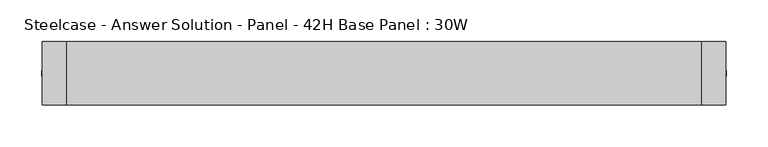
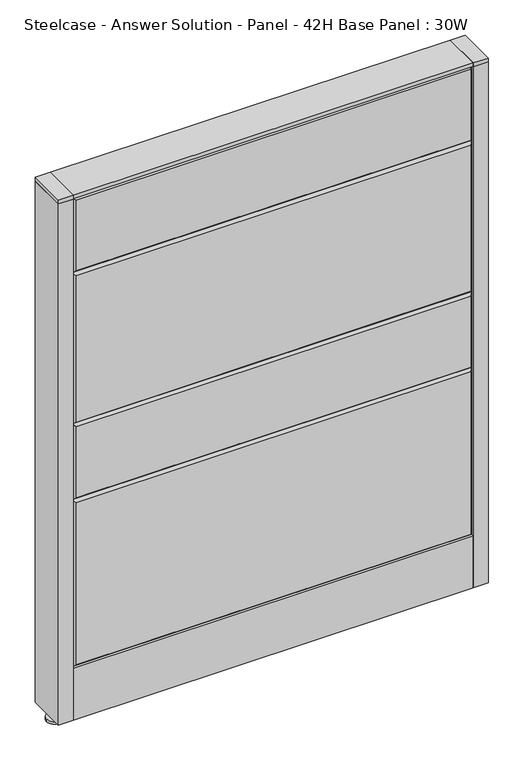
"""IFC4 building model written with IfcOpenShell, lengths in millimetres: furniture geometry, Steelcase - Answer Solution - Panel - 42H Base Panel : 30W."""

from ifc_helpers import new_model, si_unit, point, frame, frame_2d, origin, place, context, project, spatial, polyline, circle_curve, trimmed, segment, composite_curve, outline, extrude, faceted_brep, source, transform, mapped, element, save


def steelcase_answer_solution_panel_42h_base_panel_30w_5c508052(model_context):
    return source(origin(), model_context, "Body", "SolidModel", [
        extrude(outline(composite_curve([segment(trimmed(circle_curve(frame_2d((395.224, 0.0039657)), 5.08), [point((400.304, 0.0039657))], [point((390.144, 0.0039657))], False, "CARTESIAN"), True, "CONTINUOUS"), segment(trimmed(circle_curve(frame_2d((395.224, 0.0039657)), 5.08), [point((390.144, 0.0039657))], [point((400.304, 0.0039657))], False, "CARTESIAN"), True, "CONTINUOUS")], self_intersect=False)), frame((0.0, 0.0, 5.0799671), z_axis=(0.0, 0.0, 1.0), x_axis=(1.0, 0.0, 0.0)), (0.0, 0.0, 1.0), 10.414),
        extrude(outline(composite_curve([segment(trimmed(circle_curve(frame_2d((395.224, 0.0039657)), 15.24), [point((410.464, 0.0039657))], [point((379.984, 0.0039657))], False, "CARTESIAN"), True, "CONTINUOUS"), segment(trimmed(circle_curve(frame_2d((395.224, 0.0039657)), 15.24), [point((379.984, 0.0039657))], [point((410.464, 0.0039657))], False, "CARTESIAN"), True, "CONTINUOUS")], self_intersect=False)), frame((0.0, 0.0, -3.29e-05), z_axis=(0.0, 0.0, 1.0), x_axis=(1.0, 0.0, 0.0)), (0.0, 0.0, 1.0), 5.08),
        extrude(outline(polyline([(409.575, 38.1039851), (409.575, -38.0960149), (381.0, -38.0960149), (381.0, 38.1039851), (409.575, 38.1039851)])), frame((0.0, 0.0, 1065.8348), z_axis=(0.0, 0.0, 1.0), x_axis=(1.0, 0.0, 0.0)), (0.0, 0.0, 1.0), 7.3151671),
        extrude(outline(polyline([(409.575, 38.1039851), (409.575, -38.0960149), (381.0, -38.0960149), (381.0, 38.1039851), (409.575, 38.1039851)])), frame((0.0, 0.0, 15.4939671), z_axis=(0.0, 0.0, 1.0), x_axis=(1.0, 0.0, 0.0)), (0.0, 0.0, 1.0), 1050.3408329),
        extrude(outline(composite_curve([segment(trimmed(circle_curve(frame_2d((-395.224, 0.0039657)), 5.08), [point((-400.304, 0.0039657))], [point((-390.144, 0.0039657))], False, "CARTESIAN"), True, "CONTINUOUS"), segment(trimmed(circle_curve(frame_2d((-395.224, 0.0039657)), 5.08), [point((-390.144, 0.0039657))], [point((-400.304, 0.0039657))], False, "CARTESIAN"), True, "CONTINUOUS")], self_intersect=False)), frame((0.0, 0.0, 5.0799671), z_axis=(0.0, 0.0, 1.0), x_axis=(1.0, 0.0, 0.0)), (0.0, 0.0, 1.0), 10.414),
        extrude(outline(composite_curve([segment(trimmed(circle_curve(frame_2d((-395.224, 0.0039657)), 15.24), [point((-410.464, 0.0039657))], [point((-379.984, 0.0039657))], False, "CARTESIAN"), True, "CONTINUOUS"), segment(trimmed(circle_curve(frame_2d((-395.224, 0.0039657)), 15.24), [point((-379.984, 0.0039657))], [point((-410.464, 0.0039657))], False, "CARTESIAN"), True, "CONTINUOUS")], self_intersect=False)), frame((0.0, 0.0, -3.29e-05), z_axis=(0.0, 0.0, 1.0), x_axis=(1.0, 0.0, 0.0)), (0.0, 0.0, 1.0), 5.08),
        extrude(outline(polyline([(-409.575, 38.1039851), (-381.0, 38.1039851), (-381.0, -38.0960149), (-409.575, -38.0960149), (-409.575, 38.1039851)])), frame((0.0, 0.0, 1065.8348), z_axis=(0.0, 0.0, 1.0), x_axis=(1.0, 0.0, 0.0)), (0.0, 0.0, 1.0), 7.3151671),
        extrude(outline(polyline([(-409.575, 38.1039851), (-381.0, 38.1039851), (-381.0, -38.0960149), (-409.575, -38.0960149), (-409.575, 38.1039851)])), frame((0.0, 0.0, 15.4939671), z_axis=(0.0, 0.0, 1.0), x_axis=(1.0, 0.0, 0.0)), (0.0, 0.0, 1.0), 1050.3408329),
        faceted_brep([(-376.174, 38.1635011, 1061.974), (376.174, 38.1635011, 1061.974), (376.174, 38.1635011, 919.226), (-376.174, 38.1635011, 919.226), (-381.0, 33.3375011, 1066.8), (-381.0, 33.3375011, 914.4), (381.0, 33.3375011, 914.4), (381.0, 33.3375011, 1066.8)], [[[0, 1, 2, 3]], [[4, 5, 6, 7]], [[4, 7, 1, 0]], [[7, 6, 2, 1]], [[6, 5, 3, 2]], [[5, 4, 0, 3]]]),
        faceted_brep([(-376.174, 38.1635011, 909.574), (376.174, 38.1635011, 909.574), (376.174, 38.1635011, 614.426), (-376.174, 38.1635011, 614.426), (-381.0, 33.3375011, 914.4), (-381.0, 33.3375011, 609.6), (381.0, 33.3375011, 609.6), (381.0, 33.3375011, 914.4)], [[[0, 1, 2, 3]], [[4, 5, 6, 7]], [[4, 7, 1, 0]], [[7, 6, 2, 1]], [[6, 5, 3, 2]], [[5, 4, 0, 3]]]),
        faceted_brep([(-376.174, 38.1635011, 604.774), (376.174, 38.1635011, 604.774), (376.174, 38.1635011, 462.026), (-376.174, 38.1635011, 462.026), (-381.0, 33.3375011, 609.6), (-381.0, 33.3375011, 457.2), (381.0, 33.3375011, 457.2), (381.0, 33.3375011, 609.6)], [[[0, 1, 2, 3]], [[4, 5, 6, 7]], [[4, 7, 1, 0]], [[7, 6, 2, 1]], [[6, 5, 3, 2]], [[5, 4, 0, 3]]]),
        faceted_brep([(-376.174, 38.1635011, 452.374), (376.174, 38.1635011, 452.374), (376.174, 38.1635011, 125.476), (-376.174, 38.1635011, 125.476), (-381.0, 33.3375011, 457.2), (-381.0, 33.3375011, 120.65), (381.0, 33.3375011, 120.65), (381.0, 33.3375011, 457.2)], [[[0, 1, 2, 3]], [[4, 5, 6, 7]], [[4, 7, 1, 0]], [[7, 6, 2, 1]], [[6, 5, 3, 2]], [[5, 4, 0, 3]]]),
        faceted_brep([(376.174, -38.1635011, 1061.974), (-376.174, -38.1635011, 1061.974), (-376.174, -38.1635011, 919.226), (376.174, -38.1635011, 919.226), (381.0, -33.3375011, 1066.8), (381.0, -33.3375011, 914.4), (-381.0, -33.3375011, 914.4), (-381.0, -33.3375011, 1066.8)], [[[0, 1, 2, 3]], [[4, 5, 6, 7]], [[4, 7, 1, 0]], [[7, 6, 2, 1]], [[6, 5, 3, 2]], [[5, 4, 0, 3]]]),
        faceted_brep([(376.174, -38.1635011, 909.574), (-376.174, -38.1635011, 909.574), (-376.174, -38.1635011, 614.426), (376.174, -38.1635011, 614.426), (381.0, -33.3375011, 914.4), (381.0, -33.3375011, 609.6), (-381.0, -33.3375011, 609.6), (-381.0, -33.3375011, 914.4)], [[[0, 1, 2, 3]], [[4, 5, 6, 7]], [[4, 7, 1, 0]], [[7, 6, 2, 1]], [[6, 5, 3, 2]], [[5, 4, 0, 3]]]),
        faceted_brep([(376.174, -38.1635011, 604.774), (-376.174, -38.1635011, 604.774), (-376.174, -38.1635011, 462.026), (376.174, -38.1635011, 462.026), (381.0, -33.3375011, 609.6), (381.0, -33.3375011, 457.2), (-381.0, -33.3375011, 457.2), (-381.0, -33.3375011, 609.6)], [[[0, 1, 2, 3]], [[4, 5, 6, 7]], [[4, 7, 1, 0]], [[7, 6, 2, 1]], [[6, 5, 3, 2]], [[5, 4, 0, 3]]]),
        faceted_brep([(376.174, -38.1635011, 452.374), (-376.174, -38.1635011, 452.374), (-376.174, -38.1635011, 125.476), (376.174, -38.1635011, 125.476), (381.0, -33.3375011, 457.2), (381.0, -33.3375011, 120.65), (-381.0, -33.3375011, 120.65), (-381.0, -33.3375011, 457.2)], [[[0, 1, 2, 3]], [[4, 5, 6, 7]], [[4, 7, 1, 0]], [[7, 6, 2, 1]], [[6, 5, 3, 2]], [[5, 4, 0, 3]]]),
        extrude(outline(polyline([(381.0, 38.1000194), (381.0, -38.1000194), (-381.0, -38.1000194), (-381.0, 38.1000194), (381.0, 38.1000194)])), frame((0.0, 0.0, 1066.8), z_axis=(0.0, 0.0, 1.0), x_axis=(1.0, 0.0, 0.0)), (0.0, 0.0, 1.0), 6.35),
        extrude(outline(polyline([(25.4000011, 119.8575157), (25.4000011, 120.65), (38.1000194, 120.65), (38.1000194, 15.494), (37.3075215, 15.494), (37.3075215, 119.8575157), (25.4000011, 119.8575157)])), frame((-381.0, 0.0, 0.0), z_axis=(1.0, 0.0, 0.0), x_axis=(0.0, 1.0, 0.0)), (0.0, 0.0, 1.0), 762.0),
        extrude(outline(polyline([(-25.4000011, 119.8575157), (-37.3075215, 119.8575157), (-37.3075215, 15.494), (-38.1000194, 15.494), (-38.1000194, 120.65), (-25.4000011, 120.65), (-25.4000011, 119.8575157)])), frame((-381.0, 0.0, 0.0), z_axis=(1.0, 0.0, 0.0), x_axis=(0.0, 1.0, 0.0)), (0.0, 0.0, 1.0), 762.0),
    ])


if __name__ == "__main__":
    model = new_model("IFC4")
    model_context = context("Model", 3, world=origin())
    ifc_project = project(units=[si_unit("LENGTHUNIT", "METRE", prefix="MILLI")], contexts=[model_context])
    site = spatial("IfcSite", under=ifc_project)
    building = spatial("IfcBuilding", under=site)
    placement = place(None, origin())
    steelcase_answer_solution_panel_42h_base_panel_30w_shape = steelcase_answer_solution_panel_42h_base_panel_30w_5c508052(model_context)
    element("IfcFurniture", 1, ObjectType="Steelcase - Answer Solution - Panel - 42H Base Panel : 30W", at=placement, inside=building, context=model_context, shape_type="MappedRepresentation", body=[
        mapped(steelcase_answer_solution_panel_42h_base_panel_30w_shape, transform((0.0, 0.0, 0.0), x_axis=(1.0, 0.0, 0.0), y_axis=(0.0, 1.0, 0.0), z_axis=(0.0, 0.0, 1.0))),
    ])
    save(model, "model.ifc")
